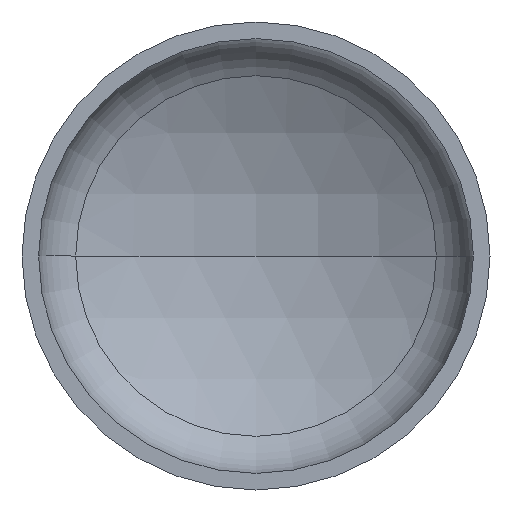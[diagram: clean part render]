
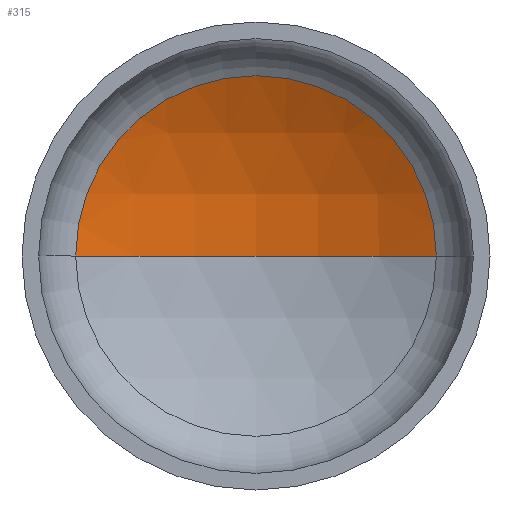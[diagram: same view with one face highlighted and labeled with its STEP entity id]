
A CAD part, front view. The second image highlights one B-rep face of the part: STEP entity #315.
In plain terms, the highlighted spherical face has radius 1440 mm.
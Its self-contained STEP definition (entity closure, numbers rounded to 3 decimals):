
#7 = AXIS2_PLACEMENT_3D ( 'NONE', #262, #59, #283 ) ;
#8 = AXIS2_PLACEMENT_3D ( 'NONE', #222, #223, #382 ) ;
#22 = EDGE_LOOP ( 'NONE', ( #110, #102, #38 ) ) ;
#23 = AXIS2_PLACEMENT_3D ( 'NONE', #162, #25, #273 ) ;
#25 = DIRECTION ( 'NONE',  ( 0., -1., 0. ) ) ;
#27 = AXIS2_PLACEMENT_3D ( 'NONE', #43, #236, #394 ) ;
#32 = VERTEX_POINT ( 'NONE', #289 ) ;
#38 = ORIENTED_EDGE ( 'NONE', *, *, #330, .T. ) ;
#43 = CARTESIAN_POINT ( 'NONE',  ( 0., -901.031, 0. ) ) ;
#59 = DIRECTION ( 'NONE',  ( 0., 0., 1. ) ) ;
#63 = VERTEX_POINT ( 'NONE', #243 ) ;
#102 = ORIENTED_EDGE ( 'NONE', *, *, #368, .T. ) ;
#110 = ORIENTED_EDGE ( 'NONE', *, *, #367, .F. ) ;
#126 = CIRCLE ( 'NONE', #8, 1440. ) ;
#131 = VERTEX_POINT ( 'NONE', #348 ) ;
#158 = SPHERICAL_SURFACE ( 'NONE', #27, 1440. ) ;
#162 = CARTESIAN_POINT ( 'NONE',  ( 0., 361.016, 0. ) ) ;
#222 = CARTESIAN_POINT ( 'NONE',  ( 0., -901.031, 0. ) ) ;
#223 = DIRECTION ( 'NONE',  ( 0., 0., -1. ) ) ;
#236 = DIRECTION ( 'NONE',  ( 0., 0., -1. ) ) ;
#243 = CARTESIAN_POINT ( 'NONE',  ( 693.425, 361.016, 0. ) ) ;
#262 = CARTESIAN_POINT ( 'NONE',  ( 0., -901.031, 0. ) ) ;
#263 = CIRCLE ( 'NONE', #7, 1440. ) ;
#273 = DIRECTION ( 'NONE',  ( 1., 0., 0. ) ) ;
#283 = DIRECTION ( 'NONE',  ( 1., 0., 0. ) ) ;
#289 = CARTESIAN_POINT ( 'NONE',  ( 0., 538.969, 0. ) ) ;
#291 = FACE_OUTER_BOUND ( 'NONE', #22, .T. ) ;
#315 = ADVANCED_FACE ( 'NONE', ( #291 ), #158, .F. ) ;
#330 = EDGE_CURVE ( 'NONE', #63, #131, #346, .T. ) ;
#346 = CIRCLE ( 'NONE', #23, 693.425 ) ;
#348 = CARTESIAN_POINT ( 'NONE',  ( -693.425, 361.016, 0. ) ) ;
#367 = EDGE_CURVE ( 'NONE', #32, #131, #263, .T. ) ;
#368 = EDGE_CURVE ( 'NONE', #32, #63, #126, .T. ) ;
#382 = DIRECTION ( 'NONE',  ( -1., 0., 0. ) ) ;
#394 = DIRECTION ( 'NONE',  ( -1., 0., 0. ) ) ;
